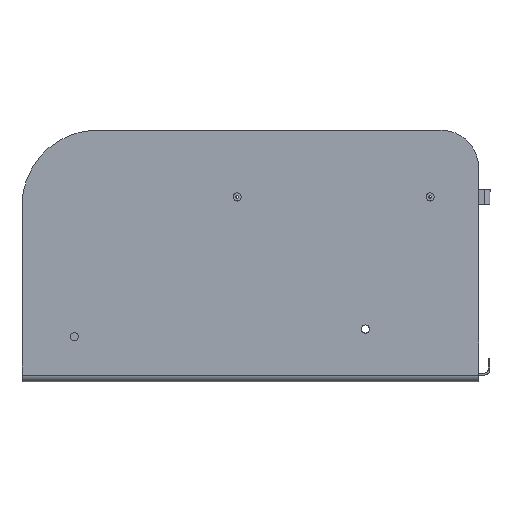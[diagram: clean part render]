
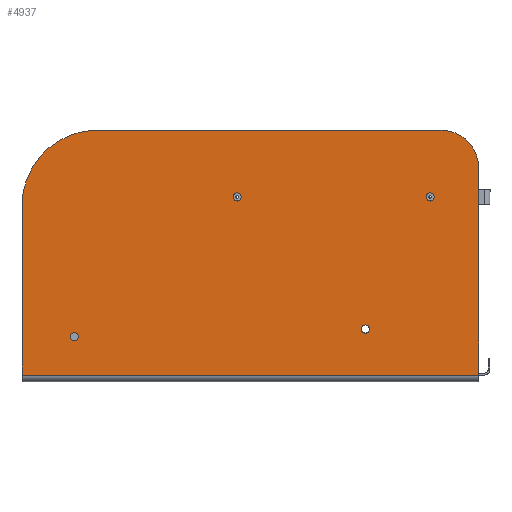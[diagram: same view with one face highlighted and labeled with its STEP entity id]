
A CAD part, left-side view. The second image highlights one B-rep face of the part: STEP entity #4937.
In plain terms, the highlighted planar face has unit normal (-1, 0, 0).
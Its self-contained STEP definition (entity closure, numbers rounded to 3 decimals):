
#23 = EDGE_CURVE ( 'NONE', #4837, #5753, #6371, .T. ) ;
#113 = LINE ( 'NONE', #4170, #295 ) ;
#123 = DIRECTION ( 'NONE',  ( 1., 0., 0. ) ) ;
#189 = CARTESIAN_POINT ( 'NONE',  ( 64298.018, 55347.088, 666.906 ) ) ;
#194 = CARTESIAN_POINT ( 'NONE',  ( 64298.018, 54637.088, 139.906 ) ) ;
#261 = CARTESIAN_POINT ( 'NONE',  ( 64298.018, 55547.088, 466.906 ) ) ;
#295 = VECTOR ( 'NONE', #5611, 1000. ) ;
#331 = EDGE_CURVE ( 'NONE', #5113, #5571, #2009, .T. ) ;
#369 = EDGE_CURVE ( 'NONE', #5753, #4837, #1189, .T. ) ;
#381 = DIRECTION ( 'NONE',  ( 0., 0., -1. ) ) ;
#409 = DIRECTION ( 'NONE',  ( 1., 0., 0. ) ) ;
#430 = ORIENTED_EDGE ( 'NONE', *, *, #4078, .F. ) ;
#433 = CIRCLE ( 'NONE', #1895, 200. ) ;
#501 = CIRCLE ( 'NONE', #2797, 10.75 ) ;
#514 = CIRCLE ( 'NONE', #2605, 10.75 ) ;
#601 = ORIENTED_EDGE ( 'NONE', *, *, #3740, .T. ) ;
#623 = CIRCLE ( 'NONE', #1564, 100. ) ;
#647 = VERTEX_POINT ( 'NONE', #5416 ) ;
#684 = CARTESIAN_POINT ( 'NONE',  ( 64298.018, 55408.088, 119.906 ) ) ;
#737 = CARTESIAN_POINT ( 'NONE',  ( 64298.018, 55408.088, 109.156 ) ) ;
#756 = CIRCLE ( 'NONE', #3157, 10.75 ) ;
#760 = VECTOR ( 'NONE', #3993, 1000. ) ;
#763 = ORIENTED_EDGE ( 'NONE', *, *, #1837, .T. ) ;
#771 = EDGE_LOOP ( 'NONE', ( #5836, #4191 ) ) ;
#922 = FACE_BOUND ( 'NONE', #4714, .T. ) ;
#964 = AXIS2_PLACEMENT_3D ( 'NONE', #5499, #123, #4637 ) ;
#1074 = DIRECTION ( 'NONE',  ( 0., 0., -1. ) ) ;
#1093 = ORIENTED_EDGE ( 'NONE', *, *, #369, .T. ) ;
#1146 = EDGE_CURVE ( 'NONE', #3794, #2757, #3432, .T. ) ;
#1189 = CIRCLE ( 'NONE', #3782, 10.75 ) ;
#1306 = CARTESIAN_POINT ( 'NONE',  ( 64298.018, 54637.088, 129.156 ) ) ;
#1363 = CARTESIAN_POINT ( 'NONE',  ( 64298.018, 55347.088, 666.906 ) ) ;
#1366 = DIRECTION ( 'NONE',  ( 1., 0., 0. ) ) ;
#1380 = CIRCLE ( 'NONE', #4809, 10.75 ) ;
#1408 = CARTESIAN_POINT ( 'NONE',  ( 64298.018, 55547.088, 466.906 ) ) ;
#1460 = EDGE_CURVE ( 'NONE', #4975, #3798, #433, .T. ) ;
#1564 = AXIS2_PLACEMENT_3D ( 'NONE', #2967, #409, #1074 ) ;
#1585 = CARTESIAN_POINT ( 'NONE',  ( 64298.018, 54637.088, 139.906 ) ) ;
#1595 = ORIENTED_EDGE ( 'NONE', *, *, #2036, .F. ) ;
#1704 = DIRECTION ( 'NONE',  ( 0., 0., -1. ) ) ;
#1769 = DIRECTION ( 'NONE',  ( 1., 0., 0. ) ) ;
#1837 = EDGE_CURVE ( 'NONE', #4623, #4066, #501, .T. ) ;
#1852 = DIRECTION ( 'NONE',  ( 1., 0., 0. ) ) ;
#1865 = EDGE_LOOP ( 'NONE', ( #2613, #601 ) ) ;
#1895 = AXIS2_PLACEMENT_3D ( 'NONE', #2864, #1366, #381 ) ;
#2009 = LINE ( 'NONE', #4999, #760 ) ;
#2036 = EDGE_CURVE ( 'NONE', #3798, #647, #5432, .T. ) ;
#2059 = CARTESIAN_POINT ( 'NONE',  ( 64298.018, 54465.588, 489.906 ) ) ;
#2140 = DIRECTION ( 'NONE',  ( 1., 0., 0. ) ) ;
#2159 = DIRECTION ( 'NONE',  ( 1., 0., 0. ) ) ;
#2207 = EDGE_CURVE ( 'NONE', #2501, #6150, #4355, .T. ) ;
#2392 = EDGE_CURVE ( 'NONE', #5571, #4975, #6143, .T. ) ;
#2501 = VERTEX_POINT ( 'NONE', #1306 ) ;
#2563 = EDGE_LOOP ( 'NONE', ( #4321, #430, #4708, #1595, #3284, #5782 ) ) ;
#2605 = AXIS2_PLACEMENT_3D ( 'NONE', #684, #2159, #3137 ) ;
#2613 = ORIENTED_EDGE ( 'NONE', *, *, #1146, .T. ) ;
#2709 = AXIS2_PLACEMENT_3D ( 'NONE', #1585, #4061, #2984 ) ;
#2715 = VECTOR ( 'NONE', #5628, 1000. ) ;
#2757 = VERTEX_POINT ( 'NONE', #4636 ) ;
#2795 = FACE_BOUND ( 'NONE', #5386, .T. ) ;
#2797 = AXIS2_PLACEMENT_3D ( 'NONE', #5408, #1852, #3454 ) ;
#2810 = AXIS2_PLACEMENT_3D ( 'NONE', #2059, #3602, #5584 ) ;
#2864 = CARTESIAN_POINT ( 'NONE',  ( 64298.018, 55347.088, 466.906 ) ) ;
#2945 = FACE_OUTER_BOUND ( 'NONE', #2563, .T. ) ;
#2967 = CARTESIAN_POINT ( 'NONE',  ( 64298.018, 54437.088, 566.906 ) ) ;
#2984 = DIRECTION ( 'NONE',  ( 0., 0., -1. ) ) ;
#3137 = DIRECTION ( 'NONE',  ( 0., 0., -1. ) ) ;
#3157 = AXIS2_PLACEMENT_3D ( 'NONE', #5646, #3236, #4174 ) ;
#3236 = DIRECTION ( 'NONE',  ( 1., 0., 0. ) ) ;
#3237 = EDGE_CURVE ( 'NONE', #6150, #2501, #1380, .T. ) ;
#3284 = ORIENTED_EDGE ( 'NONE', *, *, #1460, .F. ) ;
#3432 = CIRCLE ( 'NONE', #2810, 10.75 ) ;
#3454 = DIRECTION ( 'NONE',  ( 0., 0., -1. ) ) ;
#3602 = DIRECTION ( 'NONE',  ( 1., 0., 0. ) ) ;
#3740 = EDGE_CURVE ( 'NONE', #2757, #3794, #756, .T. ) ;
#3759 = DIRECTION ( 'NONE',  ( 0., 0., -1. ) ) ;
#3782 = AXIS2_PLACEMENT_3D ( 'NONE', #3791, #1769, #3759 ) ;
#3786 = VECTOR ( 'NONE', #4638, 1000. ) ;
#3791 = CARTESIAN_POINT ( 'NONE',  ( 64298.018, 54977.088, 489.906 ) ) ;
#3794 = VERTEX_POINT ( 'NONE', #5793 ) ;
#3798 = VERTEX_POINT ( 'NONE', #1363 ) ;
#3918 = PLANE ( 'NONE',  #5170 ) ;
#3934 = EDGE_CURVE ( 'NONE', #647, #5638, #623, .T. ) ;
#3993 = DIRECTION ( 'NONE',  ( 0., 1., 0. ) ) ;
#4061 = DIRECTION ( 'NONE',  ( 1., 0., 0. ) ) ;
#4066 = VERTEX_POINT ( 'NONE', #5049 ) ;
#4078 = EDGE_CURVE ( 'NONE', #5638, #5113, #113, .T. ) ;
#4120 = EDGE_CURVE ( 'NONE', #4066, #4623, #514, .T. ) ;
#4170 = CARTESIAN_POINT ( 'NONE',  ( 64298.018, 54337.088, 466.906 ) ) ;
#4174 = DIRECTION ( 'NONE',  ( 0., 0., -1. ) ) ;
#4178 = CARTESIAN_POINT ( 'NONE',  ( 64298.018, 54977.088, 500.656 ) ) ;
#4191 = ORIENTED_EDGE ( 'NONE', *, *, #3237, .T. ) ;
#4278 = CARTESIAN_POINT ( 'NONE',  ( 64298.018, 55547.088, 18.1 ) ) ;
#4285 = CARTESIAN_POINT ( 'NONE',  ( 64298.018, 54337.088, 18.1 ) ) ;
#4321 = ORIENTED_EDGE ( 'NONE', *, *, #331, .F. ) ;
#4355 = CIRCLE ( 'NONE', #2709, 10.75 ) ;
#4364 = CARTESIAN_POINT ( 'NONE',  ( 64298.018, 54337.088, 566.906 ) ) ;
#4366 = DIRECTION ( 'NONE',  ( 1., 0., 0. ) ) ;
#4623 = VERTEX_POINT ( 'NONE', #737 ) ;
#4636 = CARTESIAN_POINT ( 'NONE',  ( 64298.018, 54465.588, 500.656 ) ) ;
#4637 = DIRECTION ( 'NONE',  ( 0., 0., -1. ) ) ;
#4638 = DIRECTION ( 'NONE',  ( 0., -1., 0. ) ) ;
#4708 = ORIENTED_EDGE ( 'NONE', *, *, #3934, .F. ) ;
#4714 = EDGE_LOOP ( 'NONE', ( #5298, #1093 ) ) ;
#4746 = FACE_BOUND ( 'NONE', #1865, .T. ) ;
#4809 = AXIS2_PLACEMENT_3D ( 'NONE', #194, #2140, #1704 ) ;
#4837 = VERTEX_POINT ( 'NONE', #4996 ) ;
#4937 = ADVANCED_FACE ( 'NONE', ( #2945, #4746, #2795, #6214, #922 ), #3918, .F. ) ;
#4975 = VERTEX_POINT ( 'NONE', #1408 ) ;
#4996 = CARTESIAN_POINT ( 'NONE',  ( 64298.018, 54977.088, 479.156 ) ) ;
#4999 = CARTESIAN_POINT ( 'NONE',  ( 64298.018, 55347.088, 18.1 ) ) ;
#5049 = CARTESIAN_POINT ( 'NONE',  ( 64298.018, 55408.088, 130.656 ) ) ;
#5113 = VERTEX_POINT ( 'NONE', #4285 ) ;
#5170 = AXIS2_PLACEMENT_3D ( 'NONE', #5732, #4366, #5236 ) ;
#5236 = DIRECTION ( 'NONE',  ( 0., 0., -1. ) ) ;
#5298 = ORIENTED_EDGE ( 'NONE', *, *, #23, .T. ) ;
#5386 = EDGE_LOOP ( 'NONE', ( #763, #5418 ) ) ;
#5408 = CARTESIAN_POINT ( 'NONE',  ( 64298.018, 55408.088, 119.906 ) ) ;
#5416 = CARTESIAN_POINT ( 'NONE',  ( 64298.018, 54437.088, 666.906 ) ) ;
#5418 = ORIENTED_EDGE ( 'NONE', *, *, #4120, .T. ) ;
#5432 = LINE ( 'NONE', #189, #3786 ) ;
#5499 = CARTESIAN_POINT ( 'NONE',  ( 64298.018, 54977.088, 489.906 ) ) ;
#5571 = VERTEX_POINT ( 'NONE', #4278 ) ;
#5584 = DIRECTION ( 'NONE',  ( 0., 0., -1. ) ) ;
#5611 = DIRECTION ( 'NONE',  ( 0., 0., -1. ) ) ;
#5628 = DIRECTION ( 'NONE',  ( 0., 0., 1. ) ) ;
#5638 = VERTEX_POINT ( 'NONE', #4364 ) ;
#5646 = CARTESIAN_POINT ( 'NONE',  ( 64298.018, 54465.588, 489.906 ) ) ;
#5732 = CARTESIAN_POINT ( 'NONE',  ( 64298.018, 55347.088, 466.906 ) ) ;
#5753 = VERTEX_POINT ( 'NONE', #4178 ) ;
#5782 = ORIENTED_EDGE ( 'NONE', *, *, #2392, .F. ) ;
#5793 = CARTESIAN_POINT ( 'NONE',  ( 64298.018, 54465.588, 479.156 ) ) ;
#5836 = ORIENTED_EDGE ( 'NONE', *, *, #2207, .T. ) ;
#6058 = CARTESIAN_POINT ( 'NONE',  ( 64298.018, 54637.088, 150.656 ) ) ;
#6143 = LINE ( 'NONE', #261, #2715 ) ;
#6150 = VERTEX_POINT ( 'NONE', #6058 ) ;
#6214 = FACE_BOUND ( 'NONE', #771, .T. ) ;
#6371 = CIRCLE ( 'NONE', #964, 10.75 ) ;
